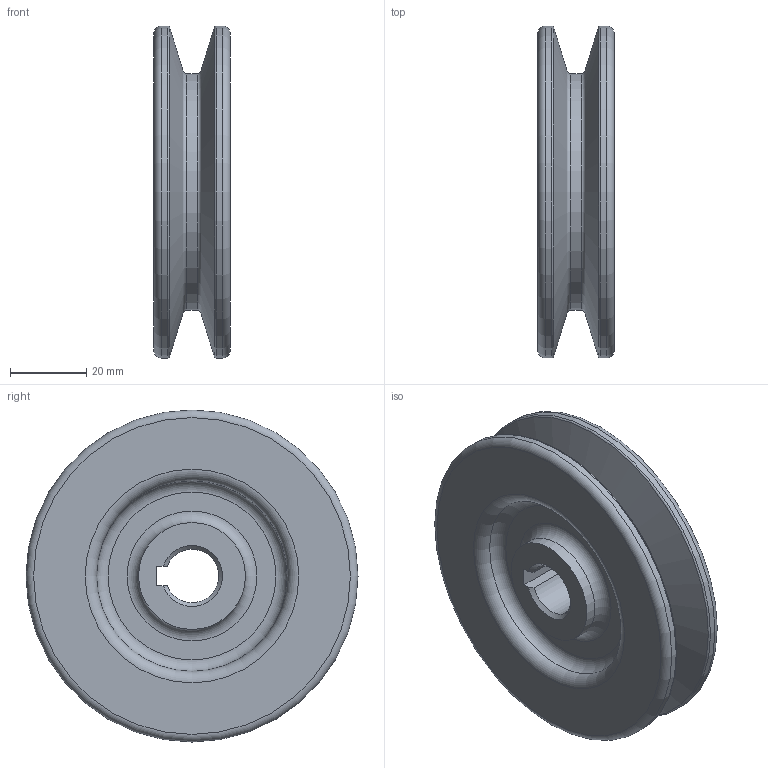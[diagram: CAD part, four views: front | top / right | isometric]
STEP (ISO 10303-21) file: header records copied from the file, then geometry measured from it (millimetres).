
FILE_DESCRIPTION(/* description */ (''),/* implementation_level */ '2;1');
FILE_NAME(/* name */ '',/* time_stamp */ '2024-04-09T15:32:38+09:00',/* author */ ('jhkim'),/* organization */ (''),/* preprocessor_version */ 'ST-DEVELOPER v20',/* originating_system */ 'Autodesk Inventor 2025',/* authorisation */ '');
FILE_SCHEMA (('AUTOMOTIVE_DESIGN { 1 0 10303 214 3 1 1 }'));
Length unit declared in the file: millimetre
Products named in the file (1): V-벨트풀리
Bounding box: 20 x 87 x 87 mm (x, y, z)
Volume: 74830.8 mm3; surface area: 22961.6 mm2
Topology: 1 solids, 1 shells, 31 faces, 74 edges, 49 vertices
Faces by surface type: torus 12, plane 9, cylinder 6, cone 4
Full cylindrical faces by diameter (mm): 28 x2, 62 x1, 87 x2
Entity records: 976 total; most frequent: DIRECTION 187, CARTESIAN_POINT 163, ORIENTED_EDGE 148, AXIS2_PLACEMENT_3D 85, EDGE_CURVE 74, CIRCLE 53, VERTEX_POINT 49, EDGE_LOOP 37
